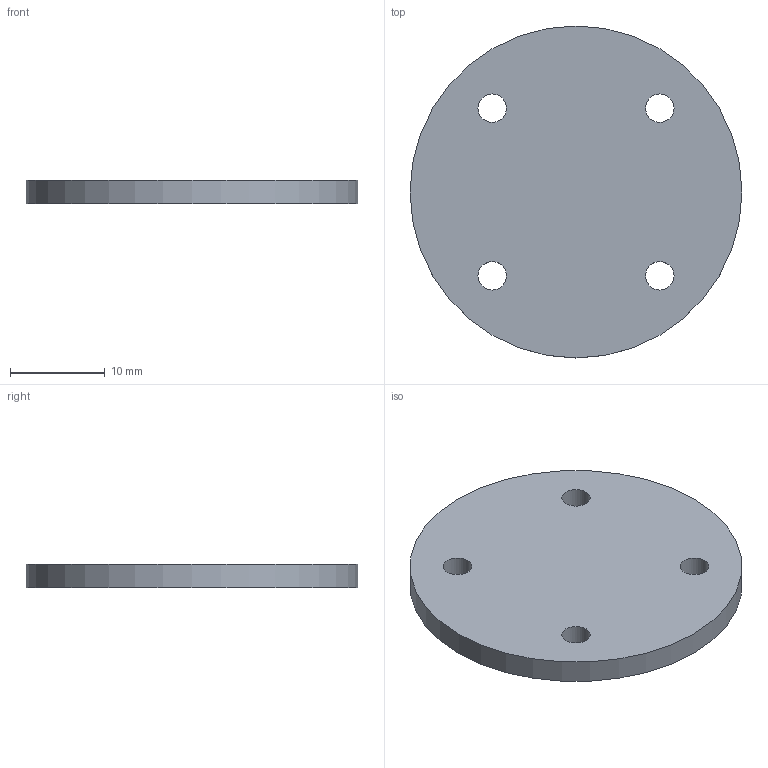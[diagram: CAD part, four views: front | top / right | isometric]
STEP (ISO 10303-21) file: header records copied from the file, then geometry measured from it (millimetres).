
FILE_DESCRIPTION(/* description */ (''),/* implementation_level */ '2;1');
FILE_NAME(/* name */ 'C:\Users\valen\Desktop\Estandar CubeSat - Programa AVES-20220531T050024Z-001\Estandar CubeSat - Programa AVES\3D - MODELS\STEP\7. Arandela.stp',/* time_stamp */ '2022-05-31T02:26:05-05:00',/* author */ ('valen'),/* organization */ (''),/* preprocessor_version */ 'ST-DEVELOPER v18.1',/* originating_system */ 'Autodesk Inventor 2022',/* authorisation */ '');
FILE_SCHEMA (('AUTOMOTIVE_DESIGN { 1 0 10303 214 3 1 1 }'));
Length unit declared in the file: millimetre
Products named in the file (1): 7. Arandela
Bounding box: 35 x 35 x 2.5 mm (x, y, z)
Volume: 2334.6 mm3; surface area: 2236.8 mm2
Topology: 1 solids, 1 shells, 7 faces, 15 edges, 10 vertices
Faces by surface type: cylinder 5, plane 2
Full cylindrical faces by diameter (mm): 3 x4, 35 x1
Entity records: 256 total; most frequent: DIRECTION 41, CARTESIAN_POINT 33, ORIENTED_EDGE 30, AXIS2_PLACEMENT_3D 18, EDGE_LOOP 15, EDGE_CURVE 15, CIRCLE 10, VERTEX_POINT 10
